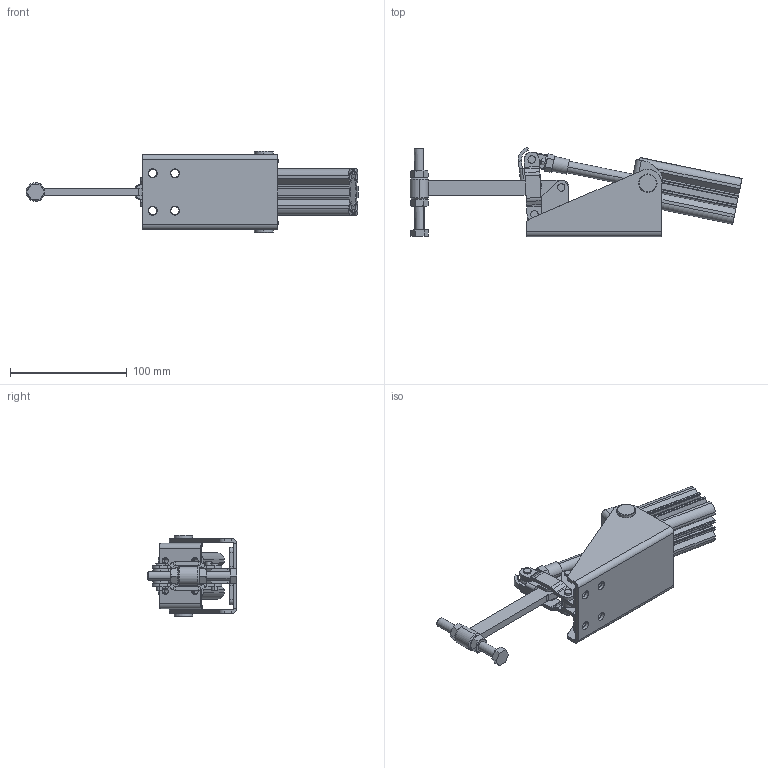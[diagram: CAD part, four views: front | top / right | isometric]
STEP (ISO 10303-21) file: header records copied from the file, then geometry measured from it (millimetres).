
FILE_DESCRIPTION (( 'STEP AP203' ), '1' );
FILE_NAME ('KF-017 DS P.STEP', '2016-12-15T11:08:47', ( 'Ricardo' ), ( '' ), 'SwSTEP 2.0', 'SolidWorks 2015', '' );
FILE_SCHEMA (( 'CONFIG_CONTROL_DESIGN' ));
Length unit declared in the file: millimetre
Products named in the file (23): 1 PC 21287; 15.10054; 02.12001_Direita; 2 PC 21287; 15.20007; 02.12001_Esquerda; 3 PC 21287; 16.20068; 04.20001; 2800250500XP_avan㌢do; 501-012; 04.10001; KF-017 DS P; 03.15002; 05.20017; 20.20004; 06.50001; 12.50020; 11.50002; 06.50002; PSB-M8; 15.10053; 01.10008
Assembly tree (28 placements, depth 3):
  KF-017 DS P
    01.10008  x2
    02.12001_Direita
    02.12001_Esquerda
    04.20001
    04.10001
    05.20017
    06.50001  x2
    06.50002  x2
    15.10053
    15.10054
    15.20007
    16.20068  x2
    501-012  x2
    03.15002
    PSB-M8
      20.20004
      12.50020
      11.50002  x2
    2800250500XP_avan㌢do
      1 PC 21287
      2 PC 21287
      3 PC 21287
Bounding box: 284.18 x 76.66 x 70 mm (x, y, z)
Volume: 177575.9 mm3; surface area: 111400.9 mm2
Topology: 26 solids, 26 shells, 711 faces, 1692 edges, 1055 vertices
Faces by surface type: cylinder 314, plane 306, cone 88, torus 2, sphere 1
Entity records: 20150 total; most frequent: DIRECTION 3227, CARTESIAN_POINT 3157, ORIENTED_EDGE 2830, EDGE_CURVE 1415, AXIS2_PLACEMENT_3D 1229, VERTEX_POINT 891, VECTOR 769, LINE 769
